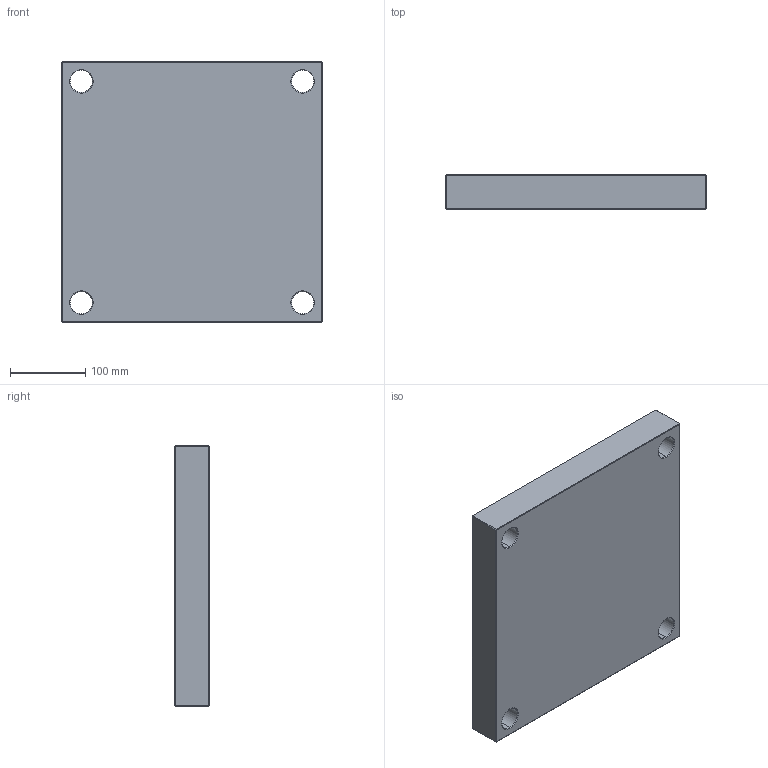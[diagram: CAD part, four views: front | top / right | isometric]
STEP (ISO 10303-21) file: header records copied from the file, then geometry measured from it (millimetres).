
FILE_DESCRIPTION (( 'STEP AP214' ), '1' );
FILE_NAME ('PCX-346x346x46.STEP', '2020-05-04T08:30:38', ( 'August' ), ( '' ), 'SwSTEP 2.0', 'SolidWorks 2018', '' );
FILE_SCHEMA (( 'AUTOMOTIVE_DESIGN' ));
Length unit declared in the file: millimetre
Products named in the file (1): PCX-346x346x46
Bounding box: 346 x 46 x 346 mm (x, y, z)
Volume: 5360654.6 mm3; surface area: 316515.1 mm2
Topology: 1 solids, 1 shells, 82 faces, 168 edges, 96 vertices
Faces by surface type: plane 34, cone 24, cylinder 24
Entity records: 2170 total; most frequent: DIRECTION 406, CARTESIAN_POINT 347, ORIENTED_EDGE 336, EDGE_CURVE 168, AXIS2_PLACEMENT_3D 155, EDGE_LOOP 98, VERTEX_POINT 96, LINE 96
